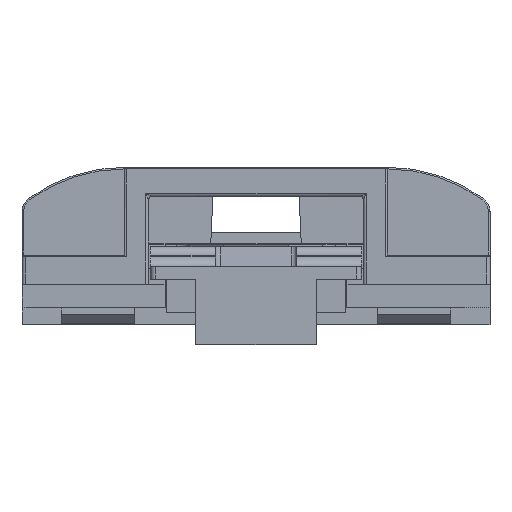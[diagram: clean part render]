
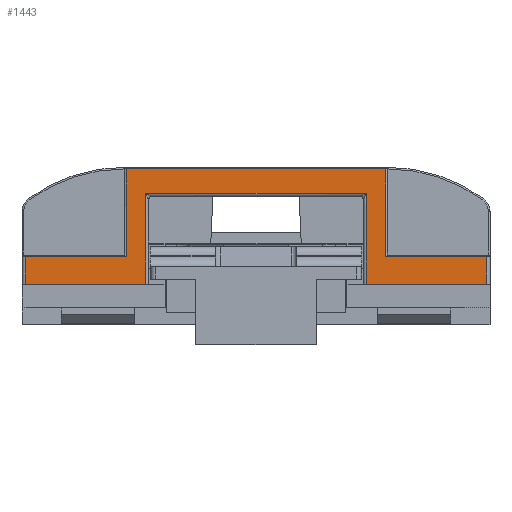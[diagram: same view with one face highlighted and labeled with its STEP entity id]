
A CAD part, top view. The second image highlights one B-rep face of the part: STEP entity #1443.
In plain terms, the highlighted planar face has unit normal (0, 0, 1).
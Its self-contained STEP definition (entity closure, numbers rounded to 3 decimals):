
#1443=ADVANCED_FACE('',(#2727),#2102,.F.);
#2102=PLANE('',#17333);
#2727=FACE_OUTER_BOUND('',#3535,.T.);
#3535=EDGE_LOOP('',(#6762,#6763,#6764,#6765,#6766,#6767,#6768,#6769,#6770,
#6771,#6772,#6773));
#6762=ORIENTED_EDGE('',*,*,#11989,.T.);
#6763=ORIENTED_EDGE('',*,*,#11990,.T.);
#6764=ORIENTED_EDGE('',*,*,#11894,.F.);
#6765=ORIENTED_EDGE('',*,*,#11991,.F.);
#6766=ORIENTED_EDGE('',*,*,#11992,.T.);
#6767=ORIENTED_EDGE('',*,*,#11993,.T.);
#6768=ORIENTED_EDGE('',*,*,#11994,.T.);
#6769=ORIENTED_EDGE('',*,*,#11995,.T.);
#6770=ORIENTED_EDGE('',*,*,#11996,.T.);
#6771=ORIENTED_EDGE('',*,*,#11997,.F.);
#6772=ORIENTED_EDGE('',*,*,#11878,.F.);
#6773=ORIENTED_EDGE('',*,*,#11998,.T.);
#9830=VERTEX_POINT('',#25531);
#9831=VERTEX_POINT('',#25533);
#9844=VERTEX_POINT('',#25562);
#9845=VERTEX_POINT('',#25564);
#9912=VERTEX_POINT('',#25743);
#9913=VERTEX_POINT('',#25744);
#9914=VERTEX_POINT('',#25747);
#9915=VERTEX_POINT('',#25749);
#9916=VERTEX_POINT('',#25751);
#9917=VERTEX_POINT('',#25753);
#9918=VERTEX_POINT('',#25755);
#9919=VERTEX_POINT('',#25757);
#11878=EDGE_CURVE('',#9830,#9831,#13997,.T.);
#11894=EDGE_CURVE('',#9844,#9845,#14006,.T.);
#11989=EDGE_CURVE('',#9912,#9913,#14076,.T.);
#11990=EDGE_CURVE('',#9913,#9845,#14077,.T.);
#11991=EDGE_CURVE('',#9914,#9844,#14078,.T.);
#11992=EDGE_CURVE('',#9914,#9915,#14079,.T.);
#11993=EDGE_CURVE('',#9915,#9916,#14080,.T.);
#11994=EDGE_CURVE('',#9916,#9917,#14081,.T.);
#11995=EDGE_CURVE('',#9917,#9918,#14082,.T.);
#11996=EDGE_CURVE('',#9918,#9919,#14083,.T.);
#11997=EDGE_CURVE('',#9831,#9919,#14084,.T.);
#11998=EDGE_CURVE('',#9830,#9912,#14085,.T.);
#13997=LINE('',#25532,#15851);
#14006=LINE('',#25563,#15860);
#14076=LINE('',#25742,#15930);
#14077=LINE('',#25745,#15931);
#14078=LINE('',#25746,#15932);
#14079=LINE('',#25748,#15933);
#14080=LINE('',#25750,#15934);
#14081=LINE('',#25752,#15935);
#14082=LINE('',#25754,#15936);
#14083=LINE('',#25756,#15937);
#14084=LINE('',#25758,#15938);
#14085=LINE('',#25759,#15939);
#15851=VECTOR('',#20499,1.);
#15860=VECTOR('',#20524,1.);
#15930=VECTOR('',#20678,1.);
#15931=VECTOR('',#20679,1.);
#15932=VECTOR('',#20680,1.);
#15933=VECTOR('',#20681,1.);
#15934=VECTOR('',#20682,1.);
#15935=VECTOR('',#20683,1.);
#15936=VECTOR('',#20684,1.);
#15937=VECTOR('',#20685,1.);
#15938=VECTOR('',#20686,1.);
#15939=VECTOR('',#20687,1.);
#17333=AXIS2_PLACEMENT_3D('',#25760,#20688,#20689);
#20499=DIRECTION('',(-1.,0.,0.));
#20524=DIRECTION('',(-1.,0.,0.));
#20678=DIRECTION('',(1.,0.,0.));
#20679=DIRECTION('',(0.,-1.,0.));
#20680=DIRECTION('',(0.,-1.,0.));
#20681=DIRECTION('',(-1.,0.,0.));
#20682=DIRECTION('',(0.,1.,0.));
#20683=DIRECTION('',(-1.,0.,0.));
#20684=DIRECTION('',(0.,-1.,0.));
#20685=DIRECTION('',(-1.,0.,0.));
#20686=DIRECTION('',(0.,1.,0.));
#20687=DIRECTION('',(0.,1.,0.));
#20688=DIRECTION('',(0.,0.,-1.));
#20689=DIRECTION('',(-1.,0.,0.));
#25531=CARTESIAN_POINT('',(7.3,-2.801,-33.9));
#25532=CARTESIAN_POINT('',(7.3,-2.801,-33.9));
#25533=CARTESIAN_POINT('',(-0.1,-2.801,-33.9));
#25562=CARTESIAN_POINT('',(28.3,-2.801,-33.9));
#25563=CARTESIAN_POINT('',(28.3,-2.801,-33.9));
#25564=CARTESIAN_POINT('',(20.9,-2.801,-33.9));
#25742=CARTESIAN_POINT('',(7.3,2.799,-33.9));
#25743=CARTESIAN_POINT('',(7.3,2.799,-33.9));
#25744=CARTESIAN_POINT('',(20.9,2.799,-33.9));
#25745=CARTESIAN_POINT('',(20.9,2.799,-33.9));
#25746=CARTESIAN_POINT('',(28.3,-1.101,-33.9));
#25747=CARTESIAN_POINT('',(28.3,-1.101,-33.9));
#25748=CARTESIAN_POINT('',(28.3,-1.101,-33.9));
#25749=CARTESIAN_POINT('',(22.1,-1.101,-33.9));
#25750=CARTESIAN_POINT('',(22.1,-1.101,-33.9));
#25751=CARTESIAN_POINT('',(22.1,4.299,-33.9));
#25752=CARTESIAN_POINT('',(22.1,4.299,-33.9));
#25753=CARTESIAN_POINT('',(6.1,4.299,-33.9));
#25754=CARTESIAN_POINT('',(6.1,4.299,-33.9));
#25755=CARTESIAN_POINT('',(6.1,-1.101,-33.9));
#25756=CARTESIAN_POINT('',(6.1,-1.101,-33.9));
#25757=CARTESIAN_POINT('',(-0.1,-1.101,-33.9));
#25758=CARTESIAN_POINT('',(-0.1,-2.801,-33.9));
#25759=CARTESIAN_POINT('',(7.3,-2.801,-33.9));
#25760=CARTESIAN_POINT('',(14.1,-2.801,-33.9));
